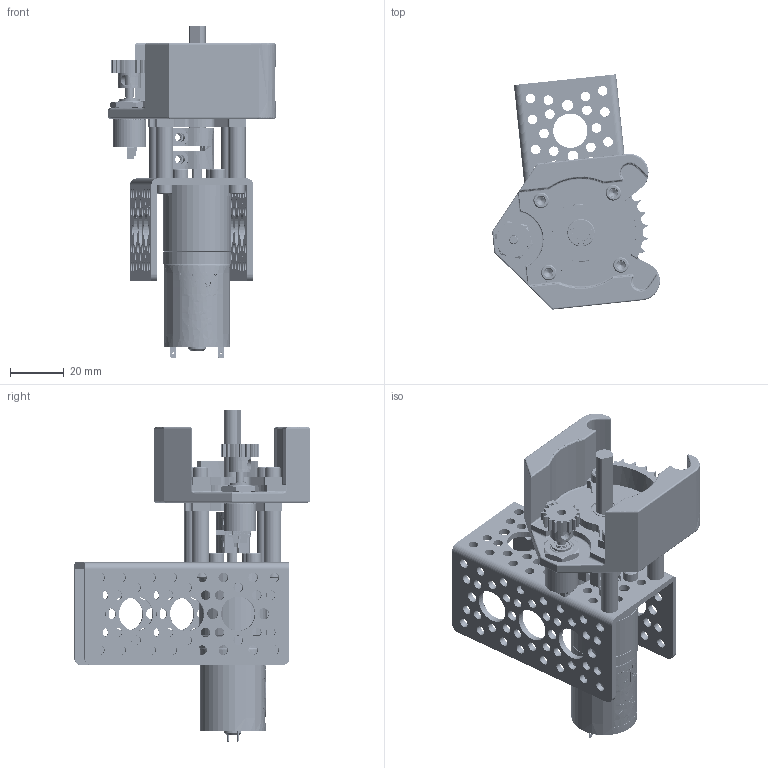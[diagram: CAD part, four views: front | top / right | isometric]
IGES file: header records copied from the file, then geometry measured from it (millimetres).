
Start section: SolidWorks IGES file using analytic representation for surfaces
Global section: file name: C:\Users\ejunkins\Desktop\osr\Mechanical\Corner Steering\CAD\Corner Steering Assembly.IGS; native system: SolidWorks 2016; preprocessor: SolidWorks 2016; author: ejunkins; date: 180403.155659; units: inch
Bounding box: 62.25 x 87.34 x 123.14 mm (x, y, z)
Surface area: 55744.7 mm2 (no closed solid volume)
Topology: 0 solids, 0 shells, 3873 faces, 47556 edges, 47511 vertices
Faces by surface type: revolution 2391, bspline 1482
